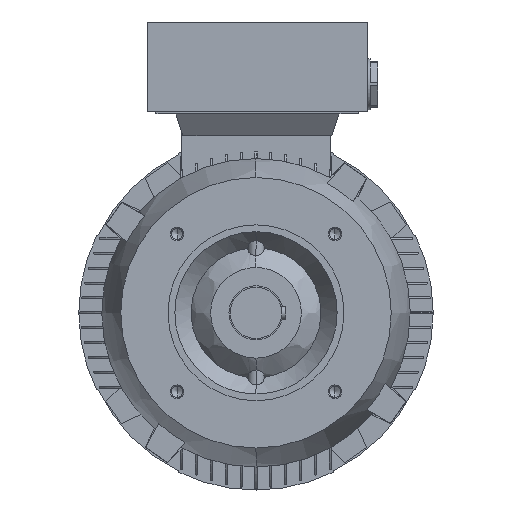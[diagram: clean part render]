
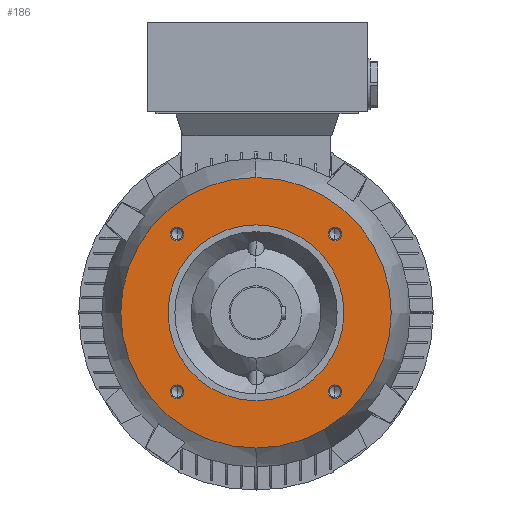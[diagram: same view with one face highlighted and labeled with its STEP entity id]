
A CAD part, left-side view. The second image highlights one B-rep face of the part: STEP entity #186.
In plain terms, the highlighted planar face has unit normal (-1, 0, 0).
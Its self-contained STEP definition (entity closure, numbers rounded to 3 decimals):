
#186 = ADVANCED_FACE ( 'NONE', ( #11381, #11388, #11385, #11387, #11379, #11389 ), #4008, .T. ) ;
#543 = CIRCLE ( 'NONE', #8710, 5. ) ;
#548 = CIRCLE ( 'NONE', #8713, 5. ) ;
#550 = CIRCLE ( 'NONE', #8711, 5. ) ;
#551 = CIRCLE ( 'NONE', #8712, 5. ) ;
#552 = CIRCLE ( 'NONE', #8714, 65. ) ;
#926 = CIRCLE ( 'NONE', #9167, 5. ) ;
#1972 = CIRCLE ( 'NONE', #8330, 100. ) ;
#2715 = EDGE_LOOP ( 'NONE', ( #13186, #13187 ) ) ;
#2720 = EDGE_LOOP ( 'NONE', ( #13192, #13193 ) ) ;
#2721 = EDGE_LOOP ( 'NONE', ( #13184, #13185 ) ) ;
#2723 = EDGE_LOOP ( 'NONE', ( #13182, #13183 ) ) ;
#2786 = EDGE_LOOP ( 'NONE', ( #13190, #13191 ) ) ;
#2807 = EDGE_LOOP ( 'NONE', ( #13188, #13189 ) ) ;
#3623 = CIRCLE ( 'NONE', #8889, 100. ) ;
#3639 = CIRCLE ( 'NONE', #8911, 65. ) ;
#3816 = CIRCLE ( 'NONE', #9162, 5. ) ;
#3824 = CIRCLE ( 'NONE', #9165, 5. ) ;
#4008 = PLANE ( 'NONE',  #6727 ) ;
#4010 = DIRECTION ( 'NONE',  ( -1., 0., 0. ) ) ;
#4015 = CARTESIAN_POINT ( 'NONE',  ( -50.5, 0., 82.5 ) ) ;
#4016 = DIRECTION ( 'NONE',  ( 0., 0., 1. ) ) ;
#4728 = CARTESIAN_POINT ( 'NONE',  ( -50.5, 58.336, 53.336 ) ) ;
#4746 = CARTESIAN_POINT ( 'NONE',  ( -50.5, -58.336, 63.336 ) ) ;
#4765 = CARTESIAN_POINT ( 'NONE',  ( -50.5, 58.336, 63.336 ) ) ;
#4773 = CARTESIAN_POINT ( 'NONE',  ( -50.5, 0., 65. ) ) ;
#4789 = CARTESIAN_POINT ( 'NONE',  ( -50.5, 0., -65. ) ) ;
#4799 = CARTESIAN_POINT ( 'NONE',  ( -50.5, 0., -100. ) ) ;
#4805 = CARTESIAN_POINT ( 'NONE',  ( -50.5, -58.336, 53.336 ) ) ;
#4831 = CARTESIAN_POINT ( 'NONE',  ( -50.5, 0., 100. ) ) ;
#6727 = AXIS2_PLACEMENT_3D ( 'NONE', #4015, #4010, #4016 ) ;
#7549 = EDGE_CURVE ( 'NONE', #7946, #7951, #543, .T. ) ;
#7550 = EDGE_CURVE ( 'NONE', #7977, #7971, #550, .T. ) ;
#7551 = EDGE_CURVE ( 'NONE', #15275, #15312, #551, .T. ) ;
#7552 = EDGE_CURVE ( 'NONE', #15352, #15293, #548, .T. ) ;
#7553 = EDGE_CURVE ( 'NONE', #15320, #15336, #552, .T. ) ;
#7946 = VERTEX_POINT ( 'NONE', #20258 ) ;
#7951 = VERTEX_POINT ( 'NONE', #20263 ) ;
#7971 = VERTEX_POINT ( 'NONE', #20283 ) ;
#7977 = VERTEX_POINT ( 'NONE', #20289 ) ;
#8330 = AXIS2_PLACEMENT_3D ( 'NONE', #10082, #10083, #10084 ) ;
#8710 = AXIS2_PLACEMENT_3D ( 'NONE', #17312, #17313, #17314 ) ;
#8711 = AXIS2_PLACEMENT_3D ( 'NONE', #17315, #17316, #17317 ) ;
#8712 = AXIS2_PLACEMENT_3D ( 'NONE', #17318, #17319, #17320 ) ;
#8713 = AXIS2_PLACEMENT_3D ( 'NONE', #17321, #17322, #17323 ) ;
#8714 = AXIS2_PLACEMENT_3D ( 'NONE', #17325, #17326, #17327 ) ;
#8889 = AXIS2_PLACEMENT_3D ( 'NONE', #14270, #14271, #14272 ) ;
#8911 = AXIS2_PLACEMENT_3D ( 'NONE', #14392, #14393, #14394 ) ;
#9162 = AXIS2_PLACEMENT_3D ( 'NONE', #21410, #21411, #21412 ) ;
#9165 = AXIS2_PLACEMENT_3D ( 'NONE', #21416, #21417, #21418 ) ;
#9167 = AXIS2_PLACEMENT_3D ( 'NONE', #21421, #21422, #21423 ) ;
#9186 = AXIS2_PLACEMENT_3D ( 'NONE', #21471, #21472, #21473 ) ;
#10082 = CARTESIAN_POINT ( 'NONE',  ( -50.5, 0., 0. ) ) ;
#10083 = DIRECTION ( 'NONE',  ( 1., 0., 0. ) ) ;
#10084 = DIRECTION ( 'NONE',  ( 0., 0., -1. ) ) ;
#11379 = FACE_BOUND ( 'NONE', #2786, .T. ) ;
#11381 = FACE_BOUND ( 'NONE', #2723, .T. ) ;
#11385 = FACE_BOUND ( 'NONE', #2715, .T. ) ;
#11387 = FACE_BOUND ( 'NONE', #2807, .T. ) ;
#11388 = FACE_OUTER_BOUND ( 'NONE', #2721, .T. ) ;
#11389 = FACE_BOUND ( 'NONE', #2720, .T. ) ;
#11552 = CIRCLE ( 'NONE', #9186, 5. ) ;
#12329 = EDGE_CURVE ( 'NONE', #15378, #15346, #3623, .T. ) ;
#12357 = EDGE_CURVE ( 'NONE', #15336, #15320, #3639, .T. ) ;
#13182 = ORIENTED_EDGE ( 'NONE', *, *, #7553, .T. ) ;
#13183 = ORIENTED_EDGE ( 'NONE', *, *, #12357, .T. ) ;
#13184 = ORIENTED_EDGE ( 'NONE', *, *, #23240, .F. ) ;
#13185 = ORIENTED_EDGE ( 'NONE', *, *, #12329, .F. ) ;
#13186 = ORIENTED_EDGE ( 'NONE', *, *, #14644, .T. ) ;
#13187 = ORIENTED_EDGE ( 'NONE', *, *, #7552, .T. ) ;
#13188 = ORIENTED_EDGE ( 'NONE', *, *, #14641, .T. ) ;
#13189 = ORIENTED_EDGE ( 'NONE', *, *, #7551, .T. ) ;
#13190 = ORIENTED_EDGE ( 'NONE', *, *, #14646, .T. ) ;
#13191 = ORIENTED_EDGE ( 'NONE', *, *, #7550, .T. ) ;
#13192 = ORIENTED_EDGE ( 'NONE', *, *, #14666, .T. ) ;
#13193 = ORIENTED_EDGE ( 'NONE', *, *, #7549, .T. ) ;
#14270 = CARTESIAN_POINT ( 'NONE',  ( -50.5, 0., 0. ) ) ;
#14271 = DIRECTION ( 'NONE',  ( 1., 0., 0. ) ) ;
#14272 = DIRECTION ( 'NONE',  ( 0., 0., -1. ) ) ;
#14392 = CARTESIAN_POINT ( 'NONE',  ( -50.5, 0., 0. ) ) ;
#14393 = DIRECTION ( 'NONE',  ( 1., 0., 0. ) ) ;
#14394 = DIRECTION ( 'NONE',  ( 0., 0., 1. ) ) ;
#14641 = EDGE_CURVE ( 'NONE', #15312, #15275, #3816, .T. ) ;
#14644 = EDGE_CURVE ( 'NONE', #15293, #15352, #3824, .T. ) ;
#14646 = EDGE_CURVE ( 'NONE', #7971, #7977, #926, .T. ) ;
#14666 = EDGE_CURVE ( 'NONE', #7951, #7946, #11552, .T. ) ;
#15275 = VERTEX_POINT ( 'NONE', #4728 ) ;
#15293 = VERTEX_POINT ( 'NONE', #4746 ) ;
#15312 = VERTEX_POINT ( 'NONE', #4765 ) ;
#15320 = VERTEX_POINT ( 'NONE', #4773 ) ;
#15336 = VERTEX_POINT ( 'NONE', #4789 ) ;
#15346 = VERTEX_POINT ( 'NONE', #4799 ) ;
#15352 = VERTEX_POINT ( 'NONE', #4805 ) ;
#15378 = VERTEX_POINT ( 'NONE', #4831 ) ;
#17312 = CARTESIAN_POINT ( 'NONE',  ( -50.5, -58.336, -58.336 ) ) ;
#17313 = DIRECTION ( 'NONE',  ( 1., 0., 0. ) ) ;
#17314 = DIRECTION ( 'NONE',  ( 0., 0., 1. ) ) ;
#17315 = CARTESIAN_POINT ( 'NONE',  ( -50.5, 58.336, -58.336 ) ) ;
#17316 = DIRECTION ( 'NONE',  ( 1., 0., 0. ) ) ;
#17317 = DIRECTION ( 'NONE',  ( 0., 0., 1. ) ) ;
#17318 = CARTESIAN_POINT ( 'NONE',  ( -50.5, 58.336, 58.336 ) ) ;
#17319 = DIRECTION ( 'NONE',  ( 1., 0., 0. ) ) ;
#17320 = DIRECTION ( 'NONE',  ( 0., 0., 1. ) ) ;
#17321 = CARTESIAN_POINT ( 'NONE',  ( -50.5, -58.336, 58.336 ) ) ;
#17322 = DIRECTION ( 'NONE',  ( 1., 0., 0. ) ) ;
#17323 = DIRECTION ( 'NONE',  ( 0., 0., 1. ) ) ;
#17325 = CARTESIAN_POINT ( 'NONE',  ( -50.5, 0., 0. ) ) ;
#17326 = DIRECTION ( 'NONE',  ( 1., 0., 0. ) ) ;
#17327 = DIRECTION ( 'NONE',  ( 0., 0., 1. ) ) ;
#20258 = CARTESIAN_POINT ( 'NONE',  ( -50.5, -58.336, -63.336 ) ) ;
#20263 = CARTESIAN_POINT ( 'NONE',  ( -50.5, -58.336, -53.336 ) ) ;
#20283 = CARTESIAN_POINT ( 'NONE',  ( -50.5, 58.336, -53.336 ) ) ;
#20289 = CARTESIAN_POINT ( 'NONE',  ( -50.5, 58.336, -63.336 ) ) ;
#21410 = CARTESIAN_POINT ( 'NONE',  ( -50.5, 58.336, 58.336 ) ) ;
#21411 = DIRECTION ( 'NONE',  ( 1., 0., 0. ) ) ;
#21412 = DIRECTION ( 'NONE',  ( 0., 0., 1. ) ) ;
#21416 = CARTESIAN_POINT ( 'NONE',  ( -50.5, -58.336, 58.336 ) ) ;
#21417 = DIRECTION ( 'NONE',  ( 1., 0., 0. ) ) ;
#21418 = DIRECTION ( 'NONE',  ( 0., 0., 1. ) ) ;
#21421 = CARTESIAN_POINT ( 'NONE',  ( -50.5, 58.336, -58.336 ) ) ;
#21422 = DIRECTION ( 'NONE',  ( 1., 0., 0. ) ) ;
#21423 = DIRECTION ( 'NONE',  ( 0., 0., 1. ) ) ;
#21471 = CARTESIAN_POINT ( 'NONE',  ( -50.5, -58.336, -58.336 ) ) ;
#21472 = DIRECTION ( 'NONE',  ( 1., 0., 0. ) ) ;
#21473 = DIRECTION ( 'NONE',  ( 0., 0., 1. ) ) ;
#23240 = EDGE_CURVE ( 'NONE', #15346, #15378, #1972, .T. ) ;
